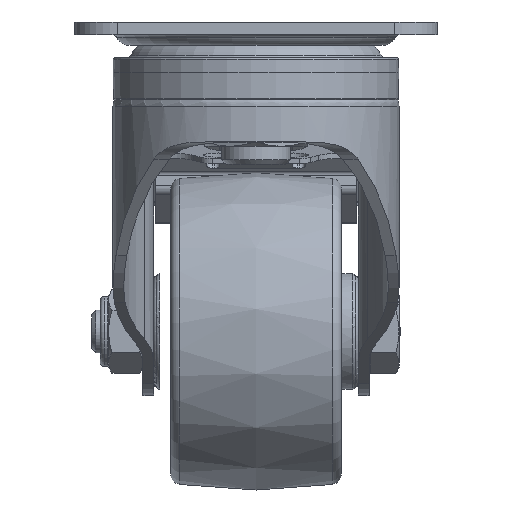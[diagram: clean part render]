
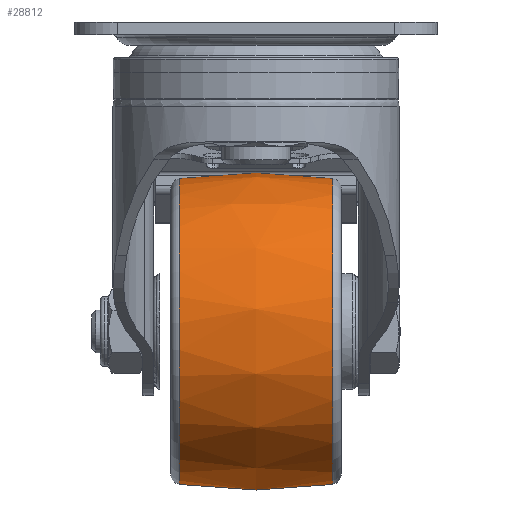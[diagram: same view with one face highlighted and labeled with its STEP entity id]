
A CAD part, left-side view. The second image highlights one B-rep face of the part: STEP entity #28812.
In plain terms, the highlighted free-form (B-spline) face has degree [2, 2] with [3, 9] control points.
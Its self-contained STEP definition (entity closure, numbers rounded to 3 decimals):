
#68=(
BOUNDED_SURFACE()
B_SPLINE_SURFACE(2,2,((#41098,#41099,#41100,#41101,#41102,#41103,#41104,
#41105,#41106),(#41107,#41108,#41109,#41110,#41111,#41112,#41113,#41114,
#41115),(#41116,#41117,#41118,#41119,#41120,#41121,#41122,#41123,#41124)),
 .UNSPECIFIED.,.F.,.T.,.F.)
B_SPLINE_SURFACE_WITH_KNOTS((3,3),(3,2,2,2,3),(-0.18,0.18),
(-3.142,-1.571,0.,1.571,3.142),
 .UNSPECIFIED.)
GEOMETRIC_REPRESENTATION_ITEM()
RATIONAL_B_SPLINE_SURFACE(((1.,0.707,1.,0.707,1.,
0.707,1.,0.707,1.),(0.984,0.696,
0.984,0.696,0.984,0.696,
0.984,0.696,0.984),(1.,0.707,
1.,0.707,1.,0.707,1.,0.707,1.)))
REPRESENTATION_ITEM('')
SURFACE()
);
#8343=FACE_OUTER_BOUND('',#10056,.T.);
#10056=EDGE_LOOP('',(#20490,#20491,#20492,#20493));
#11889=CIRCLE('',#30628,35.876);
#11891=CIRCLE('',#30630,35.876);
#11892=CIRCLE('',#30631,100.);
#13029=VERTEX_POINT('',#41095);
#13030=VERTEX_POINT('',#41125);
#15945=EDGE_CURVE('',#13029,#13029,#11889,.T.);
#15947=EDGE_CURVE('',#13030,#13030,#11891,.T.);
#15948=EDGE_CURVE('',#13030,#13029,#11892,.T.);
#20490=ORIENTED_EDGE('',*,*,#15947,.F.);
#20491=ORIENTED_EDGE('',*,*,#15948,.T.);
#20492=ORIENTED_EDGE('',*,*,#15945,.T.);
#20493=ORIENTED_EDGE('',*,*,#15948,.F.);
#28812=ADVANCED_FACE('',(#8343),#68,.F.);
#30628=AXIS2_PLACEMENT_3D('',#41096,#33018,#33019);
#30630=AXIS2_PLACEMENT_3D('',#41126,#33022,#33023);
#30631=AXIS2_PLACEMENT_3D('',#41127,#33024,#33025);
#33018=DIRECTION('center_axis',(0.,-1.,0.));
#33019=DIRECTION('ref_axis',(0.6,0.,-0.8));
#33022=DIRECTION('center_axis',(0.,-1.,0.));
#33023=DIRECTION('ref_axis',(0.6,0.,-0.8));
#33024=DIRECTION('center_axis',(-0.8,0.,
-0.6));
#33025=DIRECTION('ref_axis',(-0.6,0.,0.8));
#41095=CARTESIAN_POINT('',(18.457,17.949,-42.612));
#41096=CARTESIAN_POINT('Origin',(40.,17.949,-71.3));
#41098=CARTESIAN_POINT('Ctrl Pts',(18.457,17.949,-42.612));
#41099=CARTESIAN_POINT('Ctrl Pts',(-10.231,17.949,-64.156));
#41100=CARTESIAN_POINT('Ctrl Pts',(11.312,17.949,-92.843));
#41101=CARTESIAN_POINT('Ctrl Pts',(32.856,17.949,-121.531));
#41102=CARTESIAN_POINT('Ctrl Pts',(61.543,17.949,-99.988));
#41103=CARTESIAN_POINT('Ctrl Pts',(90.231,17.949,-78.444));
#41104=CARTESIAN_POINT('Ctrl Pts',(68.688,17.949,-49.757));
#41105=CARTESIAN_POINT('Ctrl Pts',(47.144,17.949,-21.069));
#41106=CARTESIAN_POINT('Ctrl Pts',(18.457,17.949,-42.612));
#41107=CARTESIAN_POINT('Ctrl Pts',(16.49,0.,
-39.994));
#41108=CARTESIAN_POINT('Ctrl Pts',(-14.816,0.,
-63.504));
#41109=CARTESIAN_POINT('Ctrl Pts',(8.694,0.,
-94.81));
#41110=CARTESIAN_POINT('Ctrl Pts',(32.204,0.,
-126.116));
#41111=CARTESIAN_POINT('Ctrl Pts',(63.51,0.,
-102.606));
#41112=CARTESIAN_POINT('Ctrl Pts',(94.816,0.,
-79.096));
#41113=CARTESIAN_POINT('Ctrl Pts',(71.306,0.,
-47.79));
#41114=CARTESIAN_POINT('Ctrl Pts',(47.796,0.,
-16.484));
#41115=CARTESIAN_POINT('Ctrl Pts',(16.49,0.,
-39.994));
#41116=CARTESIAN_POINT('Ctrl Pts',(18.457,-17.949,-42.612));
#41117=CARTESIAN_POINT('Ctrl Pts',(-10.231,-17.949,
-64.156));
#41118=CARTESIAN_POINT('Ctrl Pts',(11.312,-17.949,-92.843));
#41119=CARTESIAN_POINT('Ctrl Pts',(32.856,-17.949,-121.531));
#41120=CARTESIAN_POINT('Ctrl Pts',(61.543,-17.949,-99.988));
#41121=CARTESIAN_POINT('Ctrl Pts',(90.231,-17.949,-78.444));
#41122=CARTESIAN_POINT('Ctrl Pts',(68.688,-17.949,-49.757));
#41123=CARTESIAN_POINT('Ctrl Pts',(47.144,-17.949,-21.069));
#41124=CARTESIAN_POINT('Ctrl Pts',(18.457,-17.949,-42.612));
#41125=CARTESIAN_POINT('',(18.457,-17.949,-42.612));
#41126=CARTESIAN_POINT('Origin',(40.,-17.949,-71.3));
#41127=CARTESIAN_POINT('Origin',(77.531,0.,-121.277));
